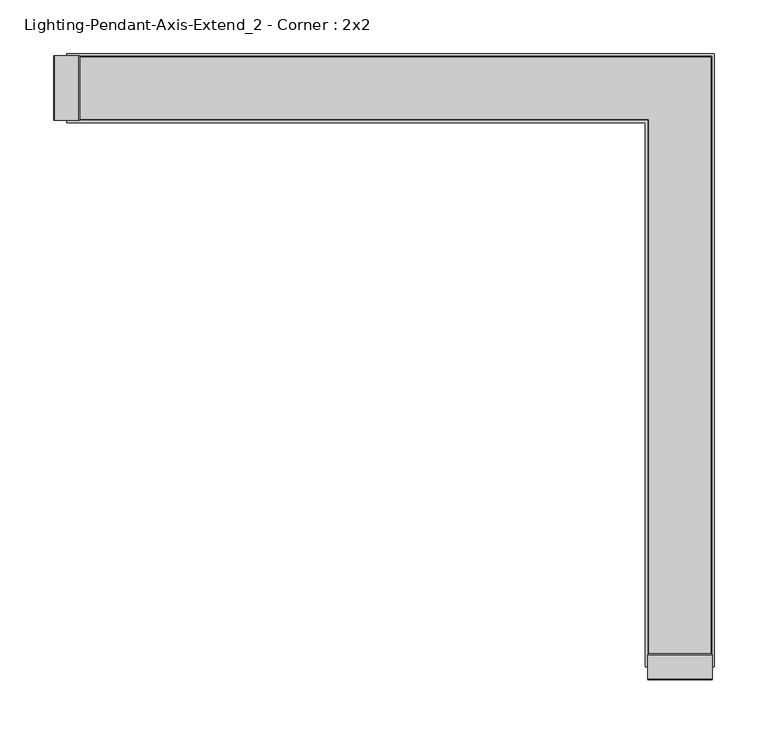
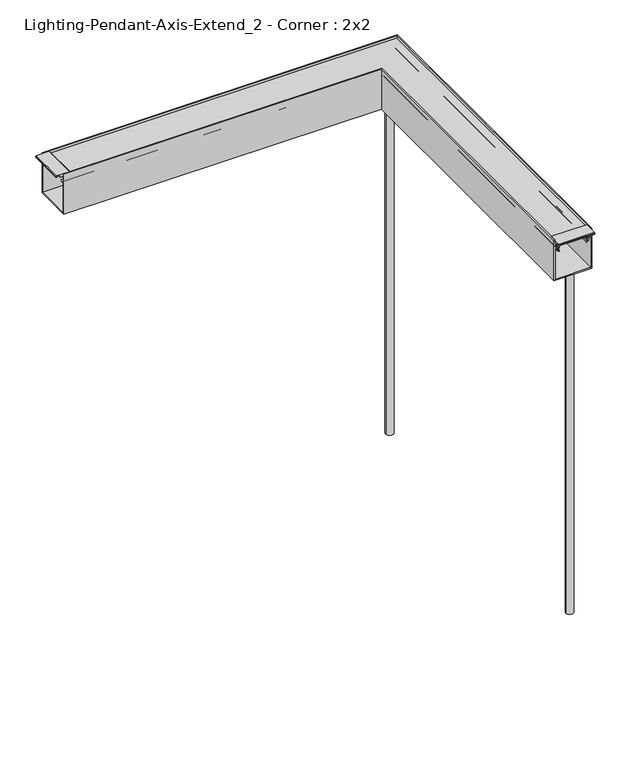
"""IFC4 building model written with IfcOpenShell, lengths in millimetres: light fixture geometry, Lighting-Pendant-Axis-Extend_2 - Corner : 2x2."""

from ifc_helpers import new_model, si_unit, frame, origin, place, context, project, spatial, polyline, circle_curve, ellipse_curve, outline, extrude, source, transform, mapped, element, save
from ifc_brep_helpers import plane_surface, cylinder_surface, revolved_surface, advanced_brep


def lighting_pendant_axis_extend_2_corner_2x2_1b34fbd2(model_context):
    return source(origin(), model_context, "Body", "SolidModel", [
        advanced_brep(
        [(286.6685102, -528.6330203, 609.6), (273.9685102, -528.6330203, 609.6), (280.3185102, -528.6330203, 609.6), (286.6685102, -528.6330203, 0.0), (273.9685102, -528.6330203, 0.0), (280.3185102, -528.6330203, 0.0)],
        [
            (0, 1, circle_curve(frame((280.3185102, -528.6330203, 609.6), z_axis=(0.0, 0.0, 1.0), x_axis=(-1.0, 0.0, 0.0)), 6.35)),
            (1, 2),
            (2, 0),
            (1, 0, circle_curve(frame((280.3185102, -528.6330203, 609.6), z_axis=(0.0, 0.0, 1.0), x_axis=(-1.0, 0.0, 0.0)), 6.35)),
            (3, 4, circle_curve(frame((280.3185102, -528.6330203, 0.0), z_axis=(0.0, 0.0, 1.0), x_axis=(-1.0, 0.0, 0.0)), 6.35)),
            (4, 1),
            (0, 3),
            (4, 3, circle_curve(frame((280.3185102, -528.6330203, 0.0), z_axis=(0.0, 0.0, 1.0), x_axis=(-1.0, 0.0, 0.0)), 6.35)),
            (5, 4),
            (3, 5),
        ],
        [
            plane_surface(frame((280.3185102, -528.6330203, 609.6), z_axis=(0.0, 0.0, 1.0), x_axis=(-1.0, 0.0, 0.0))),
            cylinder_surface(frame((280.3185102, -528.6330203, 2913.8581012), z_axis=(0.0, 0.0, -1.0), x_axis=(-1.0, 0.0, 0.0)), 6.35),
            plane_surface(frame((280.3185102, -528.6330203, 0.0), z_axis=(0.0, 0.0, -1.0), x_axis=(-1.0, 0.0, 0.0))),
        ],
        [
            (0, [[1, 2, 3]]),
            (0, [[4, -3, -2]]),
            (1, [[5, 6, -1, 7]]),
            (1, [[8, -7, -4, -6]]),
            (2, [[9, -5, 10]]),
            (2, [[-10, -8, -9]]),
        ],
    ),
        extrude(outline(polyline([(-525.6866203, 679.9357861), (-525.6866203, 678.46575), (-526.4803703, 678.46575), (-526.4803703, 679.2595), (-532.9510203, 679.2595), (-532.9510203, 676.4532981), (-542.6284203, 676.4532981), (-542.6284203, 679.2595), (-549.0990703, 679.2595), (-549.0990703, 678.46575), (-549.8928203, 678.46575), (-549.8928203, 679.9357861), (-548.9682766, 681.0375), (-526.611164, 681.0375), (-525.6866203, 679.9357861)])), frame((250.3465102, 0.0, 0.0), z_axis=(1.0, 0.0, 0.0), x_axis=(0.0, 1.0, 0.0)), (0.0, 0.0, 1.0), 59.944),
        extrude(outline(polyline([(679.9357861, -277.3721102), (681.0375, -278.2966539), (681.0375, -300.6537664), (679.9357861, -301.5783102), (678.46575, -301.5783102), (678.46575, -300.7845602), (679.2595, -300.7845602), (679.2595, -294.3139102), (676.4532981, -294.3139102), (676.4532981, -284.6365102), (679.2595, -284.6365102), (679.2595, -278.1658602), (678.46575, -278.1658602), (678.46575, -277.3721102), (679.9357861, -277.3721102)])), frame((0.0, -29.972, 0.0), z_axis=(0.0, 1.0, 0.0), x_axis=(0.0, 0.0, 1.0)), (0.0, 0.0, 1.0), 59.944),
        advanced_brep(
        [(286.6685102, 0.0, 609.6), (273.9685102, 0.0, 609.6), (280.3185102, 0.0, 609.6), (286.6685102, 0.0, 0.0), (273.9685102, 0.0, 0.0), (280.3185102, 0.0, 0.0)],
        [
            (0, 1, circle_curve(frame((280.3185102, 0.0, 609.6), z_axis=(0.0, 0.0, 1.0), x_axis=(-1.0, 0.0, 0.0)), 6.35)),
            (1, 2),
            (2, 0),
            (1, 0, circle_curve(frame((280.3185102, 0.0, 609.6), z_axis=(0.0, 0.0, 1.0), x_axis=(-1.0, 0.0, 0.0)), 6.35)),
            (3, 4, circle_curve(frame((280.3185102, 0.0, 0.0), z_axis=(0.0, 0.0, 1.0), x_axis=(-1.0, 0.0, 0.0)), 6.35)),
            (4, 1),
            (0, 3),
            (4, 3, circle_curve(frame((280.3185102, 0.0, 0.0), z_axis=(0.0, 0.0, 1.0), x_axis=(-1.0, 0.0, 0.0)), 6.35)),
            (5, 4),
            (3, 5),
        ],
        [
            plane_surface(frame((280.3185102, 0.0, 609.6), z_axis=(0.0, 0.0, 1.0), x_axis=(-1.0, 0.0, 0.0))),
            cylinder_surface(frame((280.3185102, 0.0, 2913.8581012), z_axis=(0.0, 0.0, -1.0), x_axis=(-1.0, 0.0, 0.0)), 6.35),
            plane_surface(frame((280.3185102, 0.0, 0.0), z_axis=(0.0, 0.0, -1.0), x_axis=(-1.0, 0.0, 0.0))),
        ],
        [
            (0, [[1, 2, 3]]),
            (0, [[4, -3, -2]]),
            (1, [[5, 6, -1, 7]]),
            (1, [[8, -7, -4, -6]]),
            (2, [[9, -5, 10]]),
            (2, [[-10, -8, -9]]),
        ],
    ),
        advanced_brep(
        [(-280.3185102, -24.1727262, 676.1479991), (-280.3185102, -24.5114181, 669.6853737), (-280.3185102, -25.3818814, 663.0794903), (-280.3185102, -24.5665956, 661.5817575), (-280.3185102, -23.2119066, 660.3823555), (-280.3185102, -24.192808, 659.0543369), (-280.3185102, -25.7659952, 660.4471908), (-280.3185102, -27.1108807, 664.27776), (-280.3185102, -25.4753941, 668.3169658), (-280.3185102, -26.1394859, 670.1661789), (-280.3185102, -25.825992, 676.1479991), (-280.3185102, -28.829, 676.1479991), (-280.3185102, -28.829, 678.053), (-280.3185102, 28.829, 678.053), (-280.3185102, 28.829, 676.1479991), (-280.3185102, 25.825992, 676.1479991), (-280.3185102, 26.1394859, 670.1661789), (-280.3185102, 25.4753941, 668.3169658), (-280.3185102, 27.1108807, 664.27776), (-280.3185102, 25.7659952, 660.4471908), (-280.3185102, 24.192808, 659.0543369), (-280.3185102, 23.2119066, 660.3823555), (-280.3185102, 24.5665956, 661.5817575), (-280.3185102, 25.3818814, 663.0794903), (-280.3185102, 24.5114181, 669.6853737), (-280.3185102, 24.1727262, 676.1479991), (256.1457839, -537.7897203, 676.1479991), (304.4912364, -537.7897203, 676.1479991), (304.8299283, -537.7897203, 669.6853737), (305.7003916, -537.7897203, 663.0794903), (304.8851058, -537.7897203, 661.5817575), (303.5304168, -537.7897203, 660.3823555), (304.5113182, -537.7897203, 659.0543369), (306.0845053, -537.7897203, 660.4471908), (307.4293909, -537.7897203, 664.27776), (305.7939043, -537.7897203, 668.3169658), (306.4579961, -537.7897203, 670.1661789), (306.1445021, -537.7897203, 676.1479991), (309.1475102, -537.7897203, 676.1479991), (309.1475102, -537.7897203, 678.053), (251.4895102, -537.7897203, 678.053), (251.4895102, -537.7897203, 676.1479991), (254.4925182, -537.7897203, 676.1479991), (254.1790242, -537.7897203, 670.1661789), (254.843116, -537.7897203, 668.3169658), (253.2076294, -537.7897203, 664.27776), (254.552515, -537.7897203, 660.4471908), (256.1257021, -537.7897203, 659.0543369), (257.1066035, -537.7897203, 660.3823555), (255.7519145, -537.7897203, 661.5817575), (254.9366288, -537.7897203, 663.0794903), (255.807092, -537.7897203, 669.6853737), (256.1457839, -24.1727262, 676.1479991), (255.807092, -24.5114181, 669.6853737), (254.9366288, -25.3818814, 663.0794903), (255.7519145, -24.5665956, 661.5817575), (257.1066035, -23.2119066, 660.3823555), (256.1257021, -24.192808, 659.0543369), (254.552515, -25.7659952, 660.4471908), (253.2076294, -27.1108807, 664.27776), (254.843116, -25.4753941, 668.3169658), (254.1790242, -26.1394859, 670.1661789), (254.4925182, -25.825992, 676.1479991), (251.4895102, -28.829, 676.1479991), (251.4895102, -28.829, 678.053), (309.1475102, 28.829, 678.053), (309.1475102, 28.829, 676.1479991), (306.1445021, 25.825992, 676.1479991), (306.4579961, 26.1394859, 670.1661789), (305.7939043, 25.4753941, 668.3169658), (307.4293909, 27.1108807, 664.27776), (306.0845053, 25.7659952, 660.4471908), (304.5113182, 24.192808, 659.0543369), (303.5304168, 23.2119066, 660.3823555), (304.8851058, 24.5665956, 661.5817575), (305.7003916, 25.3818814, 663.0794903), (304.8299283, 24.5114181, 669.6853737), (304.4912364, 24.1727262, 676.1479991)],
        [
            (0, 1),
            (1, 2, circle_curve(frame((-280.3185102, -27.2542, 666.6865), z_axis=(-1.0, 0.0, 0.0), x_axis=(0.0, 0.6748971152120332, 0.7379118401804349)), 4.064)),
            (2, 3, circle_curve(frame((-280.3185102, -22.149344, 663.8683457), z_axis=(1.0, 0.0, 0.0), x_axis=(0.0, -0.9714904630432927, -0.23707863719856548)), 3.3274001)),
            (3, 4, circle_curve(frame((-280.3185102, -17.1303177, 668.6160708), z_axis=(1.0, 0.0, 0.0), x_axis=(0.0, -0.7264901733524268, -0.68717685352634)), 10.2362001)),
            (4, 5, circle_curve(frame((-280.3185102, -23.7023573, 659.7183462), z_axis=(-1.0, 0.0, 0.0), x_axis=(0.0, 0.5941256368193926, 0.8043722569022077)), 0.8255)),
            (5, 6, circle_curve(frame((-280.3185102, -17.1303169, 668.6160717), z_axis=(-1.0, 0.0, 0.0), x_axis=(0.0, -0.594125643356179, -0.8043722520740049)), 11.8872013)),
            (6, 7, circle_curve(frame((-280.3185102, -22.149344, 663.8683457), z_axis=(-1.0, 0.0, 0.0), x_axis=(0.0, -0.7264685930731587, -0.6871996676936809)), 4.9784001)),
            (7, 8, circle_curve(frame((-280.3185102, -27.2542, 666.6865), z_axis=(1.0, 0.0, 0.0), x_axis=(0.0, 0.05939464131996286, -0.9982345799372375)), 2.413)),
            (8, 9, circle_curve(frame((-280.3185102, -23.6029669, 670.0332456), z_axis=(-1.0, 0.0, 0.0), x_axis=(0.0, -0.7371760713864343, -0.675700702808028)), 2.54)),
            (9, 10),
            (10, 11),
            (11, 12),
            (12, 13),
            (13, 14),
            (14, 15),
            (15, 16),
            (16, 17, circle_curve(frame((-280.3185102, 23.6029669, 670.0332456), z_axis=(-1.0, 0.0, 0.0), x_axis=(0.0, 0.9986295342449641, 0.05233596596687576)), 2.54)),
            (17, 18, circle_curve(frame((-280.3185102, 27.2542, 666.6865), z_axis=(1.0, 0.0, 0.0), x_axis=(0.0, -0.7371760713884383, 0.6757007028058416)), 2.413)),
            (18, 19, circle_curve(frame((-280.3185102, 22.149344, 663.8683457), z_axis=(-1.0, 0.0, 0.0), x_axis=(0.0, 0.9966127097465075, 0.0822381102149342)), 4.9784001)),
            (19, 20, circle_curve(frame((-280.3185102, 17.1303169, 668.6160717), z_axis=(-1.0, 0.0, 0.0), x_axis=(0.0, 0.7264685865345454, -0.6871996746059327)), 11.8872013)),
            (20, 21, circle_curve(frame((-280.3185102, 23.7023573, 659.7183462), z_axis=(-1.0, 0.0, 0.0), x_axis=(0.0, 0.5941256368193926, -0.8043722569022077)), 0.8255)),
            (21, 22, circle_curve(frame((-280.3185102, 17.1303177, 668.6160708), z_axis=(1.0, 0.0, 0.0), x_axis=(0.0, 0.5941256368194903, -0.8043722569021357)), 10.2362001)),
            (22, 23, circle_curve(frame((-280.3185102, 22.149344, 663.8683457), z_axis=(1.0, 0.0, 0.0), x_axis=(0.0, 0.7265349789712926, -0.6871294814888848)), 3.3274001)),
            (23, 24, circle_curve(frame((-280.3185102, 27.2542, 666.6865), z_axis=(-1.0, 0.0, 0.0), x_axis=(0.0, -0.46070831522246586, -0.8875516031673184)), 4.064)),
            (24, 25),
            (25, 0),
            (26, 27),
            (27, 28),
            (28, 29, circle_curve(frame((307.5727102, -537.7897203, 666.6865), z_axis=(0.0, -1.0, 0.0), x_axis=(-0.46070831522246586, 0.0, -0.8875516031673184)), 4.064)),
            (29, 30, circle_curve(frame((302.4678541, -537.7897203, 663.8683457), z_axis=(0.0, 1.0, 0.0), x_axis=(0.7265349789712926, 0.0, -0.6871294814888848)), 3.3274001)),
            (30, 31, circle_curve(frame((297.4488279, -537.7897203, 668.6160708), z_axis=(0.0, 1.0, 0.0), x_axis=(0.5941256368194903, 0.0, -0.8043722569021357)), 10.2362001)),
            (31, 32, circle_curve(frame((304.0208675, -537.7897203, 659.7183462), z_axis=(0.0, -1.0, 0.0), x_axis=(0.5941256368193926, 0.0, -0.8043722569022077)), 0.8255)),
            (32, 33, circle_curve(frame((297.4488271, -537.7897203, 668.6160717), z_axis=(0.0, -1.0, 0.0), x_axis=(0.7264685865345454, 0.0, -0.6871996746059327)), 11.8872013)),
            (33, 34, circle_curve(frame((302.4678541, -537.7897203, 663.8683457), z_axis=(0.0, -1.0, 0.0), x_axis=(0.9966127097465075, 0.0, 0.0822381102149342)), 4.9784001)),
            (34, 35, circle_curve(frame((307.5727102, -537.7897203, 666.6865), z_axis=(0.0, 1.0, 0.0), x_axis=(-0.7371760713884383, 0.0, 0.6757007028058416)), 2.413)),
            (35, 36, circle_curve(frame((303.9214771, -537.7897203, 670.0332456), z_axis=(0.0, -1.0, 0.0), x_axis=(0.9986295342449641, 0.0, 0.05233596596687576)), 2.54)),
            (36, 37),
            (37, 38),
            (38, 39),
            (39, 40),
            (40, 41),
            (41, 42),
            (42, 43),
            (43, 44, circle_curve(frame((256.7155432, -537.7897203, 670.0332456), z_axis=(0.0, -1.0, 0.0), x_axis=(-0.7371760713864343, 0.0, -0.675700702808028)), 2.54)),
            (44, 45, circle_curve(frame((253.0643102, -537.7897203, 666.6865), z_axis=(0.0, 1.0, 0.0), x_axis=(0.05939464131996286, 0.0, -0.9982345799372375)), 2.413)),
            (45, 46, circle_curve(frame((258.1691662, -537.7897203, 663.8683457), z_axis=(0.0, -1.0, 0.0), x_axis=(-0.7264685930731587, 0.0, -0.6871996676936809)), 4.9784001)),
            (46, 47, circle_curve(frame((263.1881932, -537.7897203, 668.6160717), z_axis=(0.0, -1.0, 0.0), x_axis=(-0.594125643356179, 0.0, -0.8043722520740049)), 11.8872013)),
            (47, 48, circle_curve(frame((256.6161528, -537.7897203, 659.7183462), z_axis=(0.0, -1.0, 0.0), x_axis=(0.5941256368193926, 0.0, 0.8043722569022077)), 0.8255)),
            (48, 49, circle_curve(frame((263.1881924, -537.7897203, 668.6160708), z_axis=(0.0, 1.0, 0.0), x_axis=(-0.7264901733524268, 0.0, -0.68717685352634)), 10.2362001)),
            (49, 50, circle_curve(frame((258.1691662, -537.7897203, 663.8683457), z_axis=(0.0, 1.0, 0.0), x_axis=(-0.9714904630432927, 0.0, -0.23707863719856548)), 3.3274001)),
            (50, 51, circle_curve(frame((253.0643102, -537.7897203, 666.6865), z_axis=(0.0, -1.0, 0.0), x_axis=(0.6748971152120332, 0.0, 0.7379118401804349)), 4.064)),
            (51, 26),
            (0, 52),
            (52, 53),
            (53, 1),
            (53, 54, ellipse_curve(frame((253.0643102, -27.2542, 666.6865), z_axis=(-0.7071067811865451, 0.7071067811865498, 0.0), x_axis=(-0.70710678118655, -0.7071067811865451, 0.0)), 5.7473639, 4.064)),
            (54, 2),
            (54, 55, ellipse_curve(frame((258.1691662, -22.149344, 663.8683457), z_axis=(0.7071067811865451, -0.7071067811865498, 0.0), x_axis=(0.70710678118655, 0.7071067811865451, 0.0)), 4.7056543, 3.3274001)),
            (55, 3),
            (55, 56, ellipse_curve(frame((263.1881924, -17.1303177, 668.6160708), z_axis=(0.7071067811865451, -0.7071067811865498, 0.0), x_axis=(0.70710678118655, 0.7071067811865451, 0.0)), 14.476173, 10.2362001)),
            (56, 4),
            (56, 57, ellipse_curve(frame((256.6161528, -23.7023573, 659.7183462), z_axis=(-0.7071067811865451, 0.7071067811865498, 0.0), x_axis=(-0.70710678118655, -0.7071067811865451, 0.0)), 1.1674333, 0.8255)),
            (57, 5),
            (57, 58, ellipse_curve(frame((263.1881932, -17.1303169, 668.6160717), z_axis=(-0.7071067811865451, 0.7071067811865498, 0.0), x_axis=(-0.70710678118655, -0.7071067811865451, 0.0)), 16.8110412, 11.8872013)),
            (58, 6),
            (58, 59, ellipse_curve(frame((258.1691662, -22.149344, 663.8683457), z_axis=(-0.7071067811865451, 0.7071067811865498, 0.0), x_axis=(-0.70710678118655, -0.7071067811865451, 0.0)), 7.0405209, 4.9784001)),
            (59, 7),
            (59, 60, ellipse_curve(frame((253.0643102, -27.2542, 666.6865), z_axis=(0.7071067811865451, -0.7071067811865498, 0.0), x_axis=(0.70710678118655, 0.7071067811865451, 0.0)), 3.4124973, 2.413)),
            (60, 8),
            (60, 61, ellipse_curve(frame((256.7155432, -23.6029669, 670.0332456), z_axis=(-0.7071067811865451, 0.7071067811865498, 0.0), x_axis=(-0.70710678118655, -0.7071067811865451, 0.0)), 3.5921024, 2.54)),
            (61, 9),
            (61, 62),
            (62, 10),
            (62, 42),
            (41, 63),
            (63, 11),
            (63, 64),
            (64, 12),
            (64, 40),
            (39, 65),
            (65, 13),
            (65, 66),
            (66, 14),
            (66, 38),
            (37, 67),
            (67, 15),
            (67, 68),
            (68, 16),
            (68, 69, ellipse_curve(frame((303.9214771, 23.6029669, 670.0332456), z_axis=(-0.7071067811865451, 0.7071067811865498, 0.0), x_axis=(-0.70710678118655, -0.7071067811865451, 0.0)), 3.5921024, 2.54)),
            (69, 17),
            (69, 70, ellipse_curve(frame((307.5727102, 27.2542, 666.6865), z_axis=(0.7071067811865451, -0.7071067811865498, 0.0), x_axis=(0.70710678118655, 0.7071067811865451, 0.0)), 3.4124973, 2.413)),
            (70, 18),
            (70, 71, ellipse_curve(frame((302.4678541, 22.149344, 663.8683457), z_axis=(-0.7071067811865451, 0.7071067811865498, 0.0), x_axis=(-0.70710678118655, -0.7071067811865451, 0.0)), 7.0405209, 4.9784001)),
            (71, 19),
            (71, 72, ellipse_curve(frame((297.4488271, 17.1303169, 668.6160717), z_axis=(-0.7071067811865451, 0.7071067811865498, 0.0), x_axis=(-0.70710678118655, -0.7071067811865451, 0.0)), 16.8110412, 11.8872013)),
            (72, 20),
            (72, 73, ellipse_curve(frame((304.0208675, 23.7023573, 659.7183462), z_axis=(-0.7071067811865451, 0.7071067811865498, 0.0), x_axis=(-0.70710678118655, -0.7071067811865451, 0.0)), 1.1674333, 0.8255)),
            (73, 21),
            (73, 74, ellipse_curve(frame((297.4488279, 17.1303177, 668.6160708), z_axis=(0.7071067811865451, -0.7071067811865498, 0.0), x_axis=(0.70710678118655, 0.7071067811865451, 0.0)), 14.476173, 10.2362001)),
            (74, 22),
            (74, 75, ellipse_curve(frame((302.4678541, 22.149344, 663.8683457), z_axis=(0.7071067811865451, -0.7071067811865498, 0.0), x_axis=(0.70710678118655, 0.7071067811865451, 0.0)), 4.7056543, 3.3274001)),
            (75, 23),
            (75, 76, ellipse_curve(frame((307.5727102, 27.2542, 666.6865), z_axis=(-0.7071067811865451, 0.7071067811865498, 0.0), x_axis=(-0.70710678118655, -0.7071067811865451, 0.0)), 5.7473639, 4.064)),
            (76, 24),
            (76, 77),
            (77, 25),
            (77, 27),
            (26, 52),
            (51, 53),
            (50, 54),
            (49, 55),
            (48, 56),
            (47, 57),
            (46, 58),
            (45, 59),
            (44, 60),
            (43, 61),
            (36, 68),
            (35, 69),
            (34, 70),
            (33, 71),
            (32, 72),
            (31, 73),
            (30, 74),
            (29, 75),
            (28, 76),
        ],
        [
            plane_surface(frame((-280.3185102, 0.0, 0.0), z_axis=(-1.0, 0.0, 0.0), x_axis=(0.0, 0.0, 1.0))),
            plane_surface(frame((280.3185102, -537.7897203, 0.0), z_axis=(0.0, -1.0, 0.0), x_axis=(0.0, 0.0, 1.0))),
            plane_surface(frame((-280.3185102, -24.1727262, 676.1479991), z_axis=(0.0, 0.9986295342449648, -0.05233596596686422), x_axis=(1.0, 0.0, 0.0))),
            cylinder_surface(frame((-280.3185102, -27.2542, 666.6865), z_axis=(-1.0, 0.0, 0.0), x_axis=(0.0, 0.6748971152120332, 0.7379118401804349)), 4.064),
            revolved_surface(polyline([(261.4965662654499, -25.3818814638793, 663.0794902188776), (-280.3185102, -25.3818814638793, 663.0794902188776)]), (-280.3185102, -22.149344, 663.8683457), (1.0000000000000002, 0.0, 0.0)),
            revolved_surface(polyline([(273.42439249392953, -24.566816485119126, 661.581991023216), (-280.3185102, -24.566816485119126, 661.581991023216)]), (-280.3185102, -17.1303177, 668.6160708), (1.0, 0.0, 0.0)),
            cylinder_surface(frame((-280.3185102, -23.7023573, 659.7183462), z_axis=(-1.0, 0.0, 0.0), x_axis=(0.0, 0.5941256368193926, 0.8043722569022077)), 0.8255),
            cylinder_surface(frame((-280.3185102, -17.1303169, 668.6160717), z_axis=(-1.0, 0.0, 0.0), x_axis=(0.0, -0.594125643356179, -0.8043722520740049)), 11.8872013),
            cylinder_surface(frame((-280.3185102, -22.149344, 663.8683457), z_axis=(-1.0, 0.0, 0.0), x_axis=(0.0, -0.7264685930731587, -0.6871996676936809)), 4.9784001),
            revolved_surface(polyline([(255.47731018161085, -27.11088073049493, 664.2777599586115), (-280.3185102, -27.11088073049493, 664.2777599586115)]), (-280.3185102, -27.2542, 666.6865), (1.0, 0.0, 0.0)),
            cylinder_surface(frame((-280.3185102, -23.6029669, 670.0332456), z_axis=(-1.0, 0.0, 0.0), x_axis=(0.0, -0.7371760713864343, -0.675700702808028)), 2.54),
            plane_surface(frame((-280.3185102, -26.1394859, 670.1661789), z_axis=(0.0, -0.9986295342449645, 0.05233596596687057), x_axis=(1.0, 0.0, 0.0))),
            plane_surface(frame((-280.3185102, -25.825992, 676.1479991), z_axis=(0.0, 0.0, -1.0), x_axis=(1.0, 0.0, 0.0))),
            plane_surface(frame((-280.3185102, -28.829, 676.1479991), z_axis=(0.0, -1.0, 0.0), x_axis=(1.0, 0.0, 0.0))),
            plane_surface(frame((-280.3185102, -28.829, 678.053), z_axis=(0.0, 0.0, 1.0), x_axis=(1.0, 0.0, 0.0))),
            plane_surface(frame((-280.3185102, 28.829, 678.053), z_axis=(0.0, 1.0, 0.0), x_axis=(1.0, 0.0, 0.0))),
            plane_surface(frame((-280.3185102, 28.829, 676.1479991), z_axis=(0.0, 0.0, -1.0), x_axis=(1.0, 0.0, 0.0))),
            plane_surface(frame((-280.3185102, 25.825992, 676.1479991), z_axis=(0.0, 0.9986295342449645, 0.05233596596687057), x_axis=(1.0, 0.0, 0.0))),
            cylinder_surface(frame((-280.3185102, 23.6029669, 670.0332456), z_axis=(-1.0, 0.0, 0.0), x_axis=(0.0, 0.9986295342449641, 0.05233596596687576)), 2.54),
            revolved_surface(polyline([(309.9857101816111, 25.4753941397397, 668.3169657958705), (-280.3185102, 25.4753941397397, 668.3169657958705)]), (-280.3185102, 27.2542, 666.6865), (1.0000000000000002, 0.0, 0.0)),
            cylinder_surface(frame((-280.3185102, 22.149344, 663.8683457), z_axis=(-1.0000000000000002, 0.0, 0.0), x_axis=(0.0, 0.9966127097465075, 0.0822381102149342)), 4.9784001),
            cylinder_surface(frame((-280.3185102, 17.1303169, 668.6160717), z_axis=(-1.0, 0.0, 0.0), x_axis=(0.0, 0.7264685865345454, -0.6871996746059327)), 11.8872013),
            cylinder_surface(frame((-280.3185102, 23.7023573, 659.7183462), z_axis=(-1.0, 0.0, 0.0), x_axis=(0.0, 0.5941256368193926, -0.8043722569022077)), 0.8255),
            revolved_surface(polyline([(307.68502799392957, 23.21190660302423, 660.3823554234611), (-280.3185102, 23.21190660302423, 660.3823554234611)]), (-280.3185102, 17.1303177, 668.6160708), (1.0, 0.0, 0.0)),
            revolved_surface(polyline([(305.79525416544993, 24.566816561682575, 661.5819909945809), (-280.3185102, 24.566816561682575, 661.5819909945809)]), (-280.3185102, 22.149344, 663.8683457), (1.0000000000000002, 0.0, 0.0)),
            cylinder_surface(frame((-280.3185102, 27.2542, 666.6865), z_axis=(-1.0, 0.0, 0.0), x_axis=(0.0, -0.46070831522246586, -0.8875516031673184)), 4.064),
            plane_surface(frame((-280.3185102, 24.5114181, 669.6853737), z_axis=(0.0, -0.9986295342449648, -0.05233596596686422), x_axis=(1.0, 0.0, 0.0))),
            plane_surface(frame((-280.3185102, 24.1727262, 676.1479991), z_axis=(0.0, 0.0, -1.0), x_axis=(1.0, 0.0, 0.0))),
            plane_surface(frame((256.1457839, -24.1727262, 676.1479991), z_axis=(0.9986295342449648, 0.0, -0.05233596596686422), x_axis=(0.0, -1.0, 0.0))),
            cylinder_surface(frame((253.0643102, 0.0, 666.6865), z_axis=(0.0, 1.0, 0.0), x_axis=(0.6748971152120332, 0.0, 0.7379118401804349)), 4.064),
            revolved_surface(polyline([(254.9366287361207, -537.7897203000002, 663.0794902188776), (254.9366287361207, -18.82194393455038, 663.0794902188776)]), (258.1691662, 0.0, 663.8683457), (0.0, -1.0000000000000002, 0.0)),
            revolved_surface(polyline([(255.75169361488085, -537.7897203, 661.581991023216), (255.75169361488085, -6.894117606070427, 661.581991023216)]), (263.1881924, 0.0, 668.6160708), (0.0, -1.0, 0.0)),
            cylinder_surface(frame((256.6161528, 0.0, 659.7183462), z_axis=(0.0, 1.0, 0.0), x_axis=(0.5941256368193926, 0.0, 0.8043722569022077)), 0.8255),
            cylinder_surface(frame((263.1881932, 0.0, 668.6160717), z_axis=(0.0, 1.0, 0.0), x_axis=(-0.594125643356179, 0.0, -0.8043722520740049)), 11.8872013),
            cylinder_surface(frame((258.1691662, 0.0, 663.8683457), z_axis=(0.0, 1.0, 0.0), x_axis=(-0.7264685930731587, 0.0, -0.6871996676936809)), 4.9784001),
            revolved_surface(polyline([(253.20762946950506, -537.7897203, 664.2777599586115), (253.20762946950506, -24.841200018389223, 664.2777599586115)]), (253.0643102, 0.0, 666.6865), (0.0, -1.0, 0.0)),
            cylinder_surface(frame((256.7155432, 0.0, 670.0332456), z_axis=(0.0, 1.0, 0.0), x_axis=(-0.7371760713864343, 0.0, -0.675700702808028)), 2.54),
            plane_surface(frame((254.1790242, -26.1394859, 670.1661789), z_axis=(-0.9986295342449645, 0.0, 0.05233596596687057), x_axis=(0.0, -1.0, 0.0))),
            plane_surface(frame((251.4895102, -28.829, 676.1479991), z_axis=(-1.0, 0.0, 0.0), x_axis=(0.0, -1.0, 0.0))),
            plane_surface(frame((309.1475102, 28.829, 678.053), z_axis=(1.0, 0.0, 0.0), x_axis=(0.0, -1.0, 0.0))),
            plane_surface(frame((306.1445021, 25.825992, 676.1479991), z_axis=(0.9986295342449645, 0.0, 0.05233596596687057), x_axis=(0.0, -1.0, 0.0))),
            cylinder_surface(frame((303.9214771, 0.0, 670.0332456), z_axis=(0.0, 1.0, 0.0), x_axis=(0.9986295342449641, 0.0, 0.05233596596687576)), 2.54),
            revolved_surface(polyline([(305.7939043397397, -537.7897203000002, 668.3169657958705), (305.7939043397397, 29.667199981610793, 668.3169657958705)]), (307.5727102, 0.0, 666.6865), (0.0, -1.0000000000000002, 0.0)),
            cylinder_surface(frame((302.4678541, 0.0, 663.8683457), z_axis=(0.0, 1.0000000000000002, 0.0), x_axis=(0.9966127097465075, 0.0, 0.0822381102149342)), 4.9784001),
            cylinder_surface(frame((297.4488271, 0.0, 668.6160717), z_axis=(0.0, 1.0, 0.0), x_axis=(0.7264685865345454, 0.0, -0.6871996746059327)), 11.8872013),
            cylinder_surface(frame((304.0208675, 0.0, 659.7183462), z_axis=(0.0, 1.0, 0.0), x_axis=(0.5941256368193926, 0.0, -0.8043722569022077)), 0.8255),
            revolved_surface(polyline([(303.53041680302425, -537.7897203, 660.3823554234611), (303.53041680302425, 27.36651779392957, 660.3823554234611)]), (297.4488279, 0.0, 668.6160708), (0.0, -1.0, 0.0)),
            revolved_surface(polyline([(304.8853266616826, -537.7897203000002, 661.5819909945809), (304.8853266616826, 25.476744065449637, 661.5819909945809)]), (302.4678541, 0.0, 663.8683457), (0.0, -1.0000000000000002, 0.0)),
            cylinder_surface(frame((307.5727102, 0.0, 666.6865), z_axis=(0.0, 1.0, 0.0), x_axis=(-0.46070831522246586, 0.0, -0.8875516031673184)), 4.064),
            plane_surface(frame((304.8299283, 24.5114181, 669.6853737), z_axis=(-0.9986295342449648, 0.0, -0.05233596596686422), x_axis=(0.0, -1.0, 0.0))),
        ],
        [
            (0, [[1, 2, 3, 4, 5, 6, 7, 8, 9, 10, 11, 12, 13, 14, 15, 16, 17, 18, 19, 20, 21, 22, 23, 24, 25, 26]]),
            (1, [[27, 28, 29, 30, 31, 32, 33, 34, 35, 36, 37, 38, 39, 40, 41, 42, 43, 44, 45, 46, 47, 48, 49, 50, 51, 52]]),
            (2, [[-1, 53, 54, 55]]),
            (3, [[-2, -55, 56, 57]]),
            (4, [[-3, -57, 58, 59]]),
            (5, [[-4, -59, 60, 61]]),
            (6, [[-5, -61, 62, 63]]),
            (7, [[-6, -63, 64, 65]]),
            (8, [[-7, -65, 66, 67]]),
            (9, [[-8, -67, 68, 69]]),
            (10, [[-9, -69, 70, 71]]),
            (11, [[-10, -71, 72, 73]]),
            (12, [[-11, -73, 74, -42, 75, 76]]),
            (13, [[-12, -76, 77, 78]]),
            (14, [[-13, -78, 79, -40, 80, 81]]),
            (15, [[-14, -81, 82, 83]]),
            (16, [[-15, -83, 84, -38, 85, 86]]),
            (17, [[-16, -86, 87, 88]]),
            (18, [[-17, -88, 89, 90]]),
            (19, [[-18, -90, 91, 92]]),
            (20, [[-19, -92, 93, 94]]),
            (21, [[-20, -94, 95, 96]]),
            (22, [[-21, -96, 97, 98]]),
            (23, [[-22, -98, 99, 100]]),
            (24, [[-23, -100, 101, 102]]),
            (25, [[-24, -102, 103, 104]]),
            (26, [[-25, -104, 105, 106]]),
            (27, [[-26, -106, 107, -27, 108, -53]]),
            (28, [[-54, -108, -52, 109]]),
            (29, [[-56, -109, -51, 110]]),
            (30, [[-58, -110, -50, 111]]),
            (31, [[-60, -111, -49, 112]]),
            (32, [[-62, -112, -48, 113]]),
            (33, [[-64, -113, -47, 114]]),
            (34, [[-66, -114, -46, 115]]),
            (35, [[-68, -115, -45, 116]]),
            (36, [[-70, -116, -44, 117]]),
            (37, [[-72, -117, -43, -74]]),
            (38, [[-77, -75, -41, -79]]),
            (39, [[-82, -80, -39, -84]]),
            (40, [[-87, -85, -37, 118]]),
            (41, [[-89, -118, -36, 119]]),
            (42, [[-91, -119, -35, 120]]),
            (43, [[-93, -120, -34, 121]]),
            (44, [[-95, -121, -33, 122]]),
            (45, [[-97, -122, -32, 123]]),
            (46, [[-99, -123, -31, 124]]),
            (47, [[-101, -124, -30, 125]]),
            (48, [[-103, -125, -29, 126]]),
            (49, [[-105, -126, -28, -107]]),
        ],
    ),
        advanced_brep(
        [(-289.4752102, -29.972, 666.1277), (-289.4752102, -29.972, 611.632), (-289.4752102, 29.972, 611.632), (-289.4752102, 29.972, 666.1277), (-289.4752102, 28.1325797, 666.1277), (-289.4752102, 25.8730546, 664.8231626), (-289.4752102, 24.6896516, 667.0783682), (-289.4752102, 28.067, 669.9123), (-289.4752102, 28.067, 668.1597), (-289.4752102, 29.972, 668.1597), (-289.4752102, 29.972, 674.6875), (-289.4752102, 28.067, 674.6875), (-289.4752102, 28.067, 673.1635), (-289.4752102, 26.416, 673.2500252), (-289.4752102, 26.416, 675.9575), (-289.4752102, 29.972, 675.9575), (-289.4752102, 29.972, 681.0375), (-289.4752102, 32.004, 681.0375), (-289.4752102, 32.004, 609.6), (-289.4752102, -32.004, 609.6), (-289.4752102, -32.004, 681.0375), (-289.4752102, -29.972, 681.0375), (-289.4752102, -29.972, 675.9575), (-289.4752102, -26.416, 675.9575), (-289.4752102, -26.416, 673.2500252), (-289.4752102, -28.067, 673.1635), (-289.4752102, -28.067, 674.6875), (-289.4752102, -29.972, 674.6875), (-289.4752102, -29.972, 668.1597), (-289.4752102, -28.067, 668.1597), (-289.4752102, -28.067, 669.9123), (-289.4752102, -24.6896516, 667.0783682), (-289.4752102, -25.8730546, 664.8231626), (-289.4752102, -28.1325797, 666.1277), (250.3465102, -537.7897203, 666.1277), (252.1859304, -537.7897203, 666.1277), (254.4454555, -537.7897203, 664.8231626), (255.6288585, -537.7897203, 667.0783682), (252.2515102, -537.7897203, 669.9123), (252.2515102, -537.7897203, 668.1597), (250.3465102, -537.7897203, 668.1597), (250.3465102, -537.7897203, 674.6875), (252.2515102, -537.7897203, 674.6875), (252.2515102, -537.7897203, 673.1635), (253.9025102, -537.7897203, 673.2500252), (253.9025102, -537.7897203, 675.9575), (250.3465102, -537.7897203, 675.9575), (250.3465102, -537.7897203, 681.0375), (248.3145102, -537.7897203, 681.0375), (248.3145102, -537.7897203, 609.6), (312.3225102, -537.7897203, 609.6), (312.3225102, -537.7897203, 681.0375), (310.2905102, -537.7897203, 681.0375), (310.2905102, -537.7897203, 675.9575), (306.7345102, -537.7897203, 675.9575), (306.7345102, -537.7897203, 673.2500252), (308.3855102, -537.7897203, 673.1635), (308.3855102, -537.7897203, 674.6875), (310.2905102, -537.7897203, 674.6875), (310.2905102, -537.7897203, 668.1597), (308.3855102, -537.7897203, 668.1597), (308.3855102, -537.7897203, 669.9123), (305.0081618, -537.7897203, 667.0783682), (306.1915648, -537.7897203, 664.8231626), (308.4510899, -537.7897203, 666.1277), (310.2905102, -537.7897203, 666.1277), (310.2905102, -537.7897203, 611.632), (250.3465102, -537.7897203, 611.632), (250.3465102, -29.972, 666.1277), (250.3465102, -29.972, 611.632), (310.2905102, 29.972, 611.632), (310.2905102, 29.972, 666.1277), (308.4510899, 28.1325797, 666.1277), (306.1915648, 25.8730546, 664.8231626), (305.0081618, 24.6896516, 667.0783682), (308.3855102, 28.067, 669.9123), (308.3855102, 28.067, 668.1597), (310.2905102, 29.972, 668.1597), (310.2905102, 29.972, 674.6875), (308.3855102, 28.067, 674.6875), (308.3855102, 28.067, 673.1635), (306.7345102, 26.416, 673.2500252), (306.7345102, 26.416, 675.9575), (310.2905102, 29.972, 675.9575), (310.2905102, 29.972, 681.0375), (312.3225102, 32.004, 681.0375), (312.3225102, 32.004, 609.6), (248.3145102, -32.004, 609.6), (248.3145102, -32.004, 681.0375), (250.3465102, -29.972, 681.0375), (250.3465102, -29.972, 675.9575), (253.9025102, -26.416, 675.9575), (253.9025102, -26.416, 673.2500252), (252.2515102, -28.067, 673.1635), (252.2515102, -28.067, 674.6875), (250.3465102, -29.972, 674.6875), (250.3465102, -29.972, 668.1597), (252.2515102, -28.067, 668.1597), (252.2515102, -28.067, 669.9123), (255.6288585, -24.6896516, 667.0783682), (254.4454555, -25.8730546, 664.8231626), (252.1859304, -28.1325797, 666.1277)],
        [
            (0, 1),
            (1, 2),
            (2, 3),
            (3, 4),
            (4, 5, circle_curve(frame((-289.4752102, 26.6262297, 666.1277), z_axis=(-1.0, 0.0, 0.0), x_axis=(0.0, -0.5000000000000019, -0.8660254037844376)), 1.5063501)),
            (5, 6, circle_curve(frame((-289.4752102, 27.0642121, 666.8863079), z_axis=(-1.0, 0.0, 0.0), x_axis=(0.0, -0.9967449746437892, 0.08061920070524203)), 2.382315)),
            (6, 7),
            (7, 8),
            (8, 9),
            (9, 10),
            (10, 11),
            (11, 12),
            (12, 13),
            (13, 14),
            (14, 15),
            (15, 16),
            (16, 17),
            (17, 18),
            (18, 19),
            (19, 20),
            (20, 21),
            (21, 22),
            (22, 23),
            (23, 24),
            (24, 25),
            (25, 26),
            (26, 27),
            (27, 28),
            (28, 29),
            (29, 30),
            (30, 31),
            (31, 32, circle_curve(frame((-289.4752102, -27.0642121, 666.8863079), z_axis=(-1.0, 0.0, 0.0), x_axis=(0.0, 0.5000000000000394, -0.866025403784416)), 2.382315)),
            (32, 33, circle_curve(frame((-289.4752102, -26.6262297, 666.1277), z_axis=(-1.0, 0.0, 0.0), x_axis=(0.0, -1.0, 0.0)), 1.5063501)),
            (33, 0),
            (34, 35),
            (35, 36, circle_curve(frame((253.6922805, -537.7897203, 666.1277), z_axis=(0.0, -1.0, 0.0), x_axis=(-1.0, 0.0, 0.0)), 1.5063501)),
            (36, 37, circle_curve(frame((253.254298, -537.7897203, 666.8863079), z_axis=(0.0, -1.0, 0.0), x_axis=(0.5000000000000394, 0.0, -0.866025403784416)), 2.382315)),
            (37, 38),
            (38, 39),
            (39, 40),
            (40, 41),
            (41, 42),
            (42, 43),
            (43, 44),
            (44, 45),
            (45, 46),
            (46, 47),
            (47, 48),
            (48, 49),
            (49, 50),
            (50, 51),
            (51, 52),
            (52, 53),
            (53, 54),
            (54, 55),
            (55, 56),
            (56, 57),
            (57, 58),
            (58, 59),
            (59, 60),
            (60, 61),
            (61, 62),
            (62, 63, circle_curve(frame((307.3827223, -537.7897203, 666.8863079), z_axis=(0.0, -1.0, 0.0), x_axis=(-0.9967449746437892, 0.0, 0.08061920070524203)), 2.382315)),
            (63, 64, circle_curve(frame((306.9447398, -537.7897203, 666.1277), z_axis=(0.0, -1.0, 0.0), x_axis=(-0.5000000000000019, 0.0, -0.8660254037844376)), 1.5063501)),
            (64, 65),
            (65, 66),
            (66, 67),
            (67, 34),
            (0, 68),
            (68, 69),
            (69, 1),
            (69, 67),
            (66, 70),
            (70, 2),
            (70, 71),
            (71, 3),
            (71, 65),
            (64, 72),
            (72, 4),
            (72, 73, ellipse_curve(frame((306.9447398, 26.6262297, 666.1277), z_axis=(-0.7071067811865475, 0.7071067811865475, 0.0), x_axis=(-0.7071067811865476, -0.7071067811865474, 0.0)), 2.1303007, 1.5063501)),
            (73, 5),
            (73, 74, ellipse_curve(frame((307.3827223, 27.0642121, 666.8863079), z_axis=(-0.7071067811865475, 0.7071067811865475, 0.0), x_axis=(-0.7071067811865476, -0.7071067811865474, 0.0)), 3.3691022, 2.382315)),
            (74, 6),
            (74, 75),
            (75, 7),
            (75, 76),
            (76, 8),
            (76, 60),
            (59, 77),
            (77, 9),
            (77, 78),
            (78, 10),
            (78, 58),
            (57, 79),
            (79, 11),
            (79, 80),
            (80, 12),
            (80, 81),
            (81, 13),
            (81, 82),
            (82, 14),
            (82, 54),
            (53, 83),
            (83, 15),
            (83, 84),
            (84, 16),
            (84, 52),
            (51, 85),
            (85, 17),
            (85, 86),
            (86, 18),
            (86, 50),
            (49, 87),
            (87, 19),
            (87, 88),
            (88, 20),
            (88, 48),
            (47, 89),
            (89, 21),
            (89, 90),
            (90, 22),
            (90, 46),
            (45, 91),
            (91, 23),
            (91, 92),
            (92, 24),
            (92, 93),
            (93, 25),
            (93, 94),
            (94, 26),
            (94, 42),
            (41, 95),
            (95, 27),
            (95, 96),
            (96, 28),
            (96, 40),
            (39, 97),
            (97, 29),
            (97, 98),
            (98, 30),
            (98, 99),
            (99, 31),
            (99, 100, ellipse_curve(frame((253.254298, -27.0642121, 666.8863079), z_axis=(-0.7071067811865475, 0.7071067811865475, 0.0), x_axis=(-0.7071067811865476, -0.7071067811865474, 0.0)), 3.3691022, 2.382315)),
            (100, 32),
            (100, 101, ellipse_curve(frame((253.6922805, -26.6262297, 666.1277), z_axis=(-0.7071067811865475, 0.7071067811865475, 0.0), x_axis=(-0.7071067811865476, -0.7071067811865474, 0.0)), 2.1303007, 1.5063501)),
            (101, 33),
            (101, 35),
            (34, 68),
            (63, 73),
            (62, 74),
            (61, 75),
            (56, 80),
            (55, 81),
            (44, 92),
            (43, 93),
            (38, 98),
            (37, 99),
            (36, 100),
        ],
        [
            plane_surface(frame((-289.4752102, 0.0, 0.0), z_axis=(-1.0, 0.0, 0.0), x_axis=(0.0, 0.0, 1.0))),
            plane_surface(frame((280.3185102, -537.7897203, 0.0), z_axis=(0.0, -1.0, 0.0), x_axis=(0.0, 0.0, 1.0))),
            plane_surface(frame((-289.4752102, -29.972, 666.1277), z_axis=(0.0, 1.0, 0.0), x_axis=(1.0, 0.0, 0.0))),
            plane_surface(frame((-289.4752102, -29.972, 611.632), z_axis=(0.0, 0.0, 1.0), x_axis=(1.0, 0.0, 0.0))),
            plane_surface(frame((-289.4752102, 29.972, 611.632), z_axis=(0.0, -1.0, 0.0), x_axis=(1.0, 0.0, 0.0))),
            plane_surface(frame((-289.4752102, 29.972, 666.1277), z_axis=(0.0, 0.0, -1.0), x_axis=(1.0, 0.0, 0.0))),
            cylinder_surface(frame((-289.4752102, 26.6262297, 666.1277), z_axis=(-1.0, 0.0, 0.0), x_axis=(0.0, -0.5000000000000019, -0.8660254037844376)), 1.5063501),
            cylinder_surface(frame((-289.4752102, 27.0642121, 666.8863079), z_axis=(-1.0000000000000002, 0.0, 0.0), x_axis=(0.0, -0.9967449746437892, 0.08061920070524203)), 2.382315),
            plane_surface(frame((-289.4752102, 24.6896516, 667.0783682), z_axis=(0.0, -0.6427876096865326, 0.7660444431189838), x_axis=(1.0, 0.0, 0.0))),
            plane_surface(frame((-289.4752102, 28.067, 669.9123), z_axis=(0.0, 1.0, 0.0), x_axis=(1.0, 0.0, 0.0))),
            plane_surface(frame((-289.4752102, 28.067, 668.1597), z_axis=(0.0, 0.0, 1.0), x_axis=(1.0, 0.0, 0.0))),
            plane_surface(frame((-289.4752102, 29.972, 668.1597), z_axis=(0.0, -1.0, 0.0), x_axis=(1.0, 0.0, 0.0))),
            plane_surface(frame((-289.4752102, 29.972, 674.6875), z_axis=(0.0, 0.0, -1.0), x_axis=(1.0, 0.0, 0.0))),
            plane_surface(frame((-289.4752102, 28.067, 674.6875), z_axis=(0.0, 1.0, 0.0), x_axis=(1.0, 0.0, 0.0))),
            plane_surface(frame((-289.4752102, 28.067, 673.1635), z_axis=(0.0, -0.052335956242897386, -0.9986295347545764), x_axis=(1.0, 0.0, 0.0))),
            plane_surface(frame((-289.4752102, 26.416, 673.2500252), z_axis=(0.0, -1.0, 0.0), x_axis=(1.0, 0.0, 0.0))),
            plane_surface(frame((-289.4752102, 26.416, 675.9575), z_axis=(0.0, 0.0, 1.0), x_axis=(1.0, 0.0, 0.0))),
            plane_surface(frame((-289.4752102, 29.972, 675.9575), z_axis=(0.0, -1.0, 0.0), x_axis=(1.0, 0.0, 0.0))),
            plane_surface(frame((-289.4752102, 29.972, 681.0375), z_axis=(0.0, 0.0, 1.0), x_axis=(1.0, 0.0, 0.0))),
            plane_surface(frame((-289.4752102, 32.004, 681.0375), z_axis=(0.0, 1.0, 0.0), x_axis=(1.0, 0.0, 0.0))),
            plane_surface(frame((-289.4752102, 32.004, 609.6), z_axis=(0.0, 0.0, -1.0), x_axis=(1.0, 0.0, 0.0))),
            plane_surface(frame((-289.4752102, -32.004, 609.6), z_axis=(0.0, -1.0, 0.0), x_axis=(1.0, 0.0, 0.0))),
            plane_surface(frame((-289.4752102, -32.004, 681.0375), z_axis=(0.0, 0.0, 1.0), x_axis=(1.0, 0.0, 0.0))),
            plane_surface(frame((-289.4752102, -29.972, 681.0375), z_axis=(0.0, 1.0, 0.0), x_axis=(1.0, 0.0, 0.0))),
            plane_surface(frame((-289.4752102, -29.972, 675.9575), z_axis=(0.0, 0.0, 1.0), x_axis=(1.0, 0.0, 0.0))),
            plane_surface(frame((-289.4752102, -26.416, 675.9575), z_axis=(0.0, 1.0, 0.0), x_axis=(1.0, 0.0, 0.0))),
            plane_surface(frame((-289.4752102, -26.416, 673.2500252), z_axis=(0.0, 0.052335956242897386, -0.9986295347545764), x_axis=(1.0, 0.0, 0.0))),
            plane_surface(frame((-289.4752102, -28.067, 673.1635), z_axis=(0.0, -1.0, 0.0), x_axis=(1.0, 0.0, 0.0))),
            plane_surface(frame((-289.4752102, -28.067, 674.6875), z_axis=(0.0, 0.0, -1.0), x_axis=(1.0, 0.0, 0.0))),
            plane_surface(frame((-289.4752102, -29.972, 674.6875), z_axis=(0.0, 1.0, 0.0), x_axis=(1.0, 0.0, 0.0))),
            plane_surface(frame((-289.4752102, -29.972, 668.1597), z_axis=(0.0, 0.0, 1.0), x_axis=(1.0, 0.0, 0.0))),
            plane_surface(frame((-289.4752102, -28.067, 668.1597), z_axis=(0.0, -1.0, 0.0), x_axis=(1.0, 0.0, 0.0))),
            plane_surface(frame((-289.4752102, -28.067, 669.9123), z_axis=(0.0, 0.6427876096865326, 0.7660444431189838), x_axis=(1.0, 0.0, 0.0))),
            cylinder_surface(frame((-289.4752102, -27.0642121, 666.8863079), z_axis=(-1.0, 0.0, 0.0), x_axis=(0.0, 0.5000000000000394, -0.866025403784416)), 2.382315),
            cylinder_surface(frame((-289.4752102, -26.6262297, 666.1277), z_axis=(-1.0, 0.0, 0.0), x_axis=(0.0, -1.0, 0.0)), 1.5063501),
            plane_surface(frame((-289.4752102, -28.1325797, 666.1277), z_axis=(0.0, 0.0, -1.0), x_axis=(1.0, 0.0, 0.0))),
            plane_surface(frame((250.3465102, -29.972, 666.1277), z_axis=(1.0, 0.0, 0.0), x_axis=(0.0, -1.0, 0.0))),
            plane_surface(frame((310.2905102, 29.972, 611.632), z_axis=(-1.0, 0.0, 0.0), x_axis=(0.0, -1.0, 0.0))),
            cylinder_surface(frame((306.9447398, 0.0, 666.1277), z_axis=(0.0, 1.0, 0.0), x_axis=(-0.5000000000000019, 0.0, -0.8660254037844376)), 1.5063501),
            cylinder_surface(frame((307.3827223, 0.0, 666.8863079), z_axis=(0.0, 1.0000000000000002, 0.0), x_axis=(-0.9967449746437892, 0.0, 0.08061920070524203)), 2.382315),
            plane_surface(frame((305.0081618, 24.6896516, 667.0783682), z_axis=(-0.6427876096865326, 0.0, 0.7660444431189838), x_axis=(0.0, -1.0, 0.0))),
            plane_surface(frame((308.3855102, 28.067, 669.9123), z_axis=(1.0, 0.0, 0.0), x_axis=(0.0, -1.0, 0.0))),
            plane_surface(frame((310.2905102, 29.972, 668.1597), z_axis=(-1.0, 0.0, 0.0), x_axis=(0.0, -1.0, 0.0))),
            plane_surface(frame((308.3855102, 28.067, 674.6875), z_axis=(1.0, 0.0, 0.0), x_axis=(0.0, -1.0, 0.0))),
            plane_surface(frame((308.3855102, 28.067, 673.1635), z_axis=(-0.052335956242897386, 0.0, -0.9986295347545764), x_axis=(0.0, -1.0, 0.0))),
            plane_surface(frame((306.7345102, 26.416, 673.2500252), z_axis=(-1.0, 0.0, 0.0), x_axis=(0.0, -1.0, 0.0))),
            plane_surface(frame((310.2905102, 29.972, 675.9575), z_axis=(-1.0, 0.0, 0.0), x_axis=(0.0, -1.0, 0.0))),
            plane_surface(frame((312.3225102, 32.004, 681.0375), z_axis=(1.0, 0.0, 0.0), x_axis=(0.0, -1.0, 0.0))),
            plane_surface(frame((248.3145102, -32.004, 609.6), z_axis=(-1.0, 0.0, 0.0), x_axis=(0.0, -1.0, 0.0))),
            plane_surface(frame((250.3465102, -29.972, 681.0375), z_axis=(1.0, 0.0, 0.0), x_axis=(0.0, -1.0, 0.0))),
            plane_surface(frame((253.9025102, -26.416, 675.9575), z_axis=(1.0, 0.0, 0.0), x_axis=(0.0, -1.0, 0.0))),
            plane_surface(frame((253.9025102, -26.416, 673.2500252), z_axis=(0.052335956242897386, 0.0, -0.9986295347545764), x_axis=(0.0, -1.0, 0.0))),
            plane_surface(frame((252.2515102, -28.067, 673.1635), z_axis=(-1.0, 0.0, 0.0), x_axis=(0.0, -1.0, 0.0))),
            plane_surface(frame((250.3465102, -29.972, 674.6875), z_axis=(1.0, 0.0, 0.0), x_axis=(0.0, -1.0, 0.0))),
            plane_surface(frame((252.2515102, -28.067, 668.1597), z_axis=(-1.0, 0.0, 0.0), x_axis=(0.0, -1.0, 0.0))),
            plane_surface(frame((252.2515102, -28.067, 669.9123), z_axis=(0.6427876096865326, 0.0, 0.7660444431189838), x_axis=(0.0, -1.0, 0.0))),
            cylinder_surface(frame((253.254298, 0.0, 666.8863079), z_axis=(0.0, 1.0, 0.0), x_axis=(0.5000000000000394, 0.0, -0.866025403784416)), 2.382315),
            cylinder_surface(frame((253.6922805, 0.0, 666.1277), z_axis=(0.0, 1.0, 0.0), x_axis=(-1.0, 0.0, 0.0)), 1.5063501),
        ],
        [
            (0, [[1, 2, 3, 4, 5, 6, 7, 8, 9, 10, 11, 12, 13, 14, 15, 16, 17, 18, 19, 20, 21, 22, 23, 24, 25, 26, 27, 28, 29, 30, 31, 32, 33, 34]]),
            (1, [[35, 36, 37, 38, 39, 40, 41, 42, 43, 44, 45, 46, 47, 48, 49, 50, 51, 52, 53, 54, 55, 56, 57, 58, 59, 60, 61, 62, 63, 64, 65, 66, 67, 68]]),
            (2, [[-1, 69, 70, 71]]),
            (3, [[-2, -71, 72, -67, 73, 74]]),
            (4, [[-3, -74, 75, 76]]),
            (5, [[-4, -76, 77, -65, 78, 79]]),
            (6, [[-5, -79, 80, 81]]),
            (7, [[-6, -81, 82, 83]]),
            (8, [[-7, -83, 84, 85]]),
            (9, [[-8, -85, 86, 87]]),
            (10, [[-9, -87, 88, -60, 89, 90]]),
            (11, [[-10, -90, 91, 92]]),
            (12, [[-11, -92, 93, -58, 94, 95]]),
            (13, [[-12, -95, 96, 97]]),
            (14, [[-13, -97, 98, 99]]),
            (15, [[-14, -99, 100, 101]]),
            (16, [[-15, -101, 102, -54, 103, 104]]),
            (17, [[-16, -104, 105, 106]]),
            (18, [[-17, -106, 107, -52, 108, 109]]),
            (19, [[-18, -109, 110, 111]]),
            (20, [[-19, -111, 112, -50, 113, 114]]),
            (21, [[-20, -114, 115, 116]]),
            (22, [[-21, -116, 117, -48, 118, 119]]),
            (23, [[-22, -119, 120, 121]]),
            (24, [[-23, -121, 122, -46, 123, 124]]),
            (25, [[-24, -124, 125, 126]]),
            (26, [[-25, -126, 127, 128]]),
            (27, [[-26, -128, 129, 130]]),
            (28, [[-27, -130, 131, -42, 132, 133]]),
            (29, [[-28, -133, 134, 135]]),
            (30, [[-29, -135, 136, -40, 137, 138]]),
            (31, [[-30, -138, 139, 140]]),
            (32, [[-31, -140, 141, 142]]),
            (33, [[-32, -142, 143, 144]]),
            (34, [[-33, -144, 145, 146]]),
            (35, [[-34, -146, 147, -35, 148, -69]]),
            (36, [[-70, -148, -68, -72]]),
            (37, [[-75, -73, -66, -77]]),
            (38, [[-80, -78, -64, 149]]),
            (39, [[-82, -149, -63, 150]]),
            (40, [[-84, -150, -62, 151]]),
            (41, [[-86, -151, -61, -88]]),
            (42, [[-91, -89, -59, -93]]),
            (43, [[-96, -94, -57, 152]]),
            (44, [[-98, -152, -56, 153]]),
            (45, [[-100, -153, -55, -102]]),
            (46, [[-105, -103, -53, -107]]),
            (47, [[-110, -108, -51, -112]]),
            (48, [[-115, -113, -49, -117]]),
            (49, [[-120, -118, -47, -122]]),
            (50, [[-125, -123, -45, 154]]),
            (51, [[-127, -154, -44, 155]]),
            (52, [[-129, -155, -43, -131]]),
            (53, [[-134, -132, -41, -136]]),
            (54, [[-139, -137, -39, 156]]),
            (55, [[-141, -156, -38, 157]]),
            (56, [[-143, -157, -37, 158]]),
            (57, [[-145, -158, -36, -147]]),
        ],
    ),
    ])


if __name__ == "__main__":
    model = new_model("IFC4")
    model_context = context("Model", 3, world=origin())
    ifc_project = project(units=[si_unit("LENGTHUNIT", "METRE", prefix="MILLI")], contexts=[model_context])
    site = spatial("IfcSite", under=ifc_project)
    building = spatial("IfcBuilding", under=site)
    placement = place(None, origin())
    lighting_pendant_axis_extend_2_corner_2x2_shape = lighting_pendant_axis_extend_2_corner_2x2_1b34fbd2(model_context)
    element("IfcLightFixture", 1, ObjectType="Lighting-Pendant-Axis-Extend_2 - Corner : 2x2", at=placement, inside=building, context=model_context, shape_type="MappedRepresentation", body=[
        mapped(lighting_pendant_axis_extend_2_corner_2x2_shape, transform((0.0, 0.0, 0.0), x_axis=(1.0, 0.0, 0.0), y_axis=(0.0, 1.0, 0.0), z_axis=(0.0, 0.0, 1.0))),
    ])
    save(model, "model.ifc")
